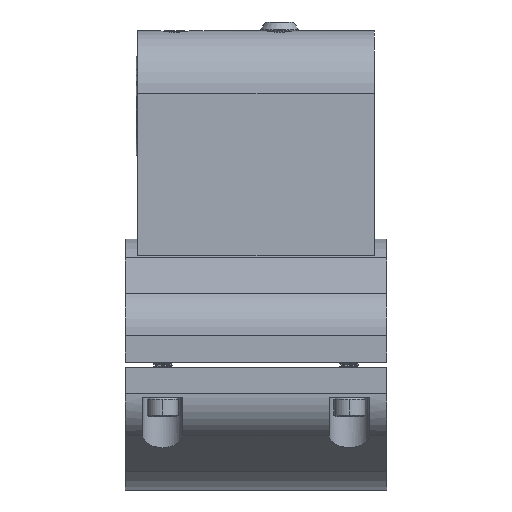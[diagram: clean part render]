
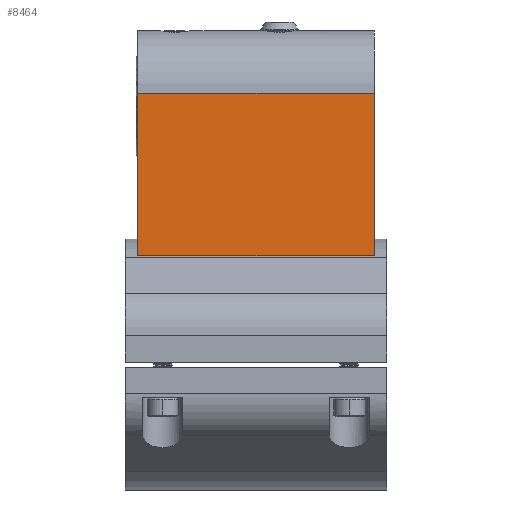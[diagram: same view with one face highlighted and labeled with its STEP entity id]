
A CAD part, left-side view. The second image highlights one B-rep face of the part: STEP entity #8464.
In plain terms, the highlighted planar face has unit normal (-1, 0, 0) as drawn and (0, 0, 1) by its records, which use the part's own axes.
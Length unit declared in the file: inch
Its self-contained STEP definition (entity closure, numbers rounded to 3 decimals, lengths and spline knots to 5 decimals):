
#2228 = LINE ( 'NONE', #4131, #2310 ) ;
#2266 = VECTOR ( 'NONE', #4101, 39.37008 ) ;
#2277 = LINE ( 'NONE', #4337, #2309 ) ;
#2280 = LINE ( 'NONE', #4098, #2266 ) ;
#2284 = LINE ( 'NONE', #4182, #2295 ) ;
#2295 = VECTOR ( 'NONE', #4170, 39.37008 ) ;
#2309 = VECTOR ( 'NONE', #4310, 39.37008 ) ;
#2310 = VECTOR ( 'NONE', #4102, 39.37008 ) ;
#4098 = CARTESIAN_POINT ( 'NONE',  ( 1.125, -1.1875, 1.25 ) ) ;
#4101 = DIRECTION ( 'NONE',  ( 1., 0., 0. ) ) ;
#4102 = DIRECTION ( 'NONE',  ( 0., 1., 0. ) ) ;
#4131 = CARTESIAN_POINT ( 'NONE',  ( 0.5, 0., 1.25 ) ) ;
#4170 = DIRECTION ( 'NONE',  ( 0., -1., 0. ) ) ;
#4182 = CARTESIAN_POINT ( 'NONE',  ( -1.125, 1.1875, 1.25 ) ) ;
#4310 = DIRECTION ( 'NONE',  ( -1., 0., 0. ) ) ;
#4337 = CARTESIAN_POINT ( 'NONE',  ( 1.125, 1.1875, 1.25 ) ) ;
#7043 = CARTESIAN_POINT ( 'NONE',  ( -1.125, 1.1875, 1.25 ) ) ;
#7045 = CARTESIAN_POINT ( 'NONE',  ( -1.125, -1.1875, 1.25 ) ) ;
#7051 = CARTESIAN_POINT ( 'NONE',  ( 0.5, 1.1875, 1.25 ) ) ;
#7064 = CARTESIAN_POINT ( 'NONE',  ( 0.5, -1.1875, 1.25 ) ) ;
#8464 = ADVANCED_FACE ( 'NONE', ( #14799 ), #17159, .F. ) ;
#9633 = EDGE_CURVE ( 'NONE', #12114, #12093, #2228, .T. ) ;
#9636 = EDGE_CURVE ( 'NONE', #12121, #12114, #2280, .T. ) ;
#9648 = EDGE_CURVE ( 'NONE', #12119, #12121, #2284, .T. ) ;
#9655 = EDGE_CURVE ( 'NONE', #12093, #12119, #2277, .T. ) ;
#11118 = AXIS2_PLACEMENT_3D ( 'NONE', #17200, #17201, #17204 ) ;
#12093 = VERTEX_POINT ( 'NONE', #7051 ) ;
#12114 = VERTEX_POINT ( 'NONE', #7064 ) ;
#12119 = VERTEX_POINT ( 'NONE', #7043 ) ;
#12121 = VERTEX_POINT ( 'NONE', #7045 ) ;
#12143 = EDGE_LOOP ( 'NONE', ( #22100, #23016, #22090, #22074 ) ) ;
#14799 = FACE_OUTER_BOUND ( 'NONE', #12143, .T. ) ;
#17159 = PLANE ( 'NONE',  #11118 ) ;
#17200 = CARTESIAN_POINT ( 'NONE',  ( 0., 0., 1.25 ) ) ;
#17201 = DIRECTION ( 'NONE',  ( 0., 0., -1. ) ) ;
#17204 = DIRECTION ( 'NONE',  ( -1., 0., 0. ) ) ;
#22074 = ORIENTED_EDGE ( 'NONE', *, *, #9648, .T. ) ;
#22090 = ORIENTED_EDGE ( 'NONE', *, *, #9655, .T. ) ;
#22100 = ORIENTED_EDGE ( 'NONE', *, *, #9636, .T. ) ;
#23016 = ORIENTED_EDGE ( 'NONE', *, *, #9633, .T. ) ;
